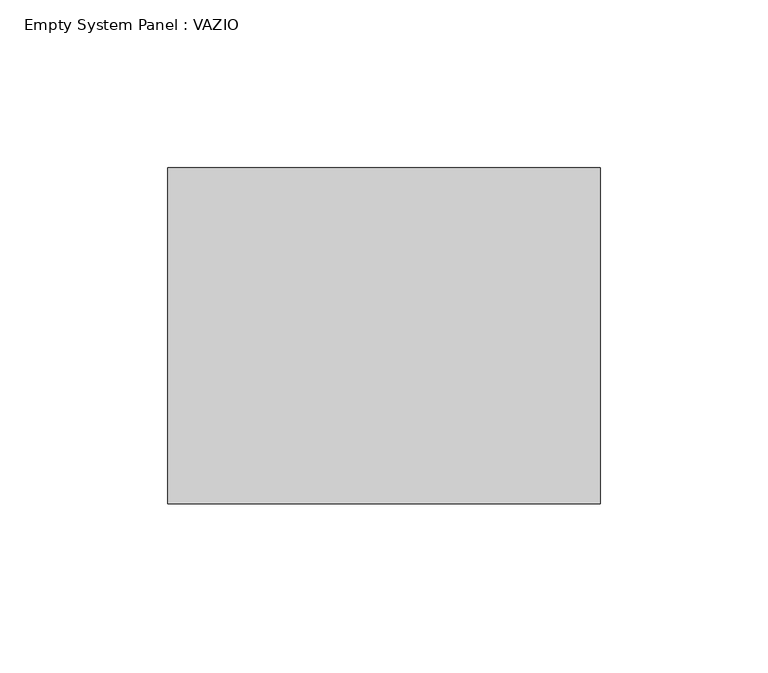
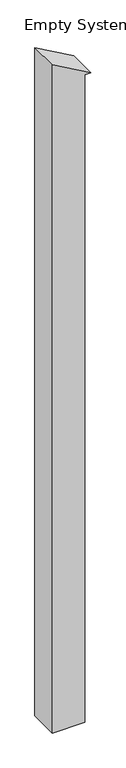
"""IFC4 building model written with IfcOpenShell, lengths in millimetres: plate geometry, Empty System Panel : VAZIO."""

import ifcopenshell
import ifcopenshell.guid

model = None  # the IFC model being written
_history = None  # IfcOwnerHistory: only IFC2X3 demands one
_inside = {}  # id of a spatial element -> (the spatial element, [elements in it])
_under = {}  # id of a project, library or spatial element -> (it, [spatial elements below it])
_declared = {}  # id of a project -> (the project, [libraries it declares])
_typed = {}  # id of a type object -> (the type object, [elements of that type])
_made_of = {}  # id of a material, layer set ... -> (it, [elements and type objects made of it])


def new_model(schema):
    """Start an empty IFC model of exactly this schema.

    Asked for "IFC4X3", IfcOpenShell would pick the latest addendum, in which some entities
    have other attributes; the version numbers below select the first issue.
    IFC2X3 requires an IfcOwnerHistory on every rooted entity: one is made here for all.
    """
    global model, _history
    if schema == "IFC4X3":
        model = ifcopenshell.file(schema_version=(4, 3, 0, 0))
    else:
        model = ifcopenshell.file(schema=schema)
    _inside.clear()
    _under.clear()
    _declared.clear()
    _typed.clear()
    _made_of.clear()
    _history = None
    if model.schema == "IFC2X3":
        org = make("IfcOrganization", Name="unknown")
        user = make(
            "IfcPersonAndOrganization",
            ThePerson=make("IfcPerson", FamilyName="unknown"),
            TheOrganization=org,
        )
        app = make(
            "IfcApplication",
            ApplicationDeveloper=org,
            Version="unknown",
            ApplicationFullName="unknown",
            ApplicationIdentifier="unknown",
        )
        _history = make(
            "IfcOwnerHistory",
            OwningUser=user,
            OwningApplication=app,
            ChangeAction="ADDED",
            CreationDate=0,
        )
    return model


def make(cls, **values):
    """One entity of the class cls with the attributes given. An attribute that is None is left unset."""
    return model.create_entity(
        cls, **{name: value for name, value in values.items() if value is not None}
    )


def rooted(cls, **values):
    """An entity with a GlobalId (a new one), such as an element, a storey or a relation."""
    return make(cls, GlobalId=ifcopenshell.guid.new(), OwnerHistory=_history, **values)


def si_unit(unit_type, name, prefix=None):
    """IfcSIUnit, for example si_unit("LENGTHUNIT", "METRE", prefix="MILLI")."""
    return make("IfcSIUnit", UnitType=unit_type, Prefix=prefix, Name=name)


def assignment(units):
    """IfcUnitAssignment: the units of a project."""
    return None if units is None else make("IfcUnitAssignment", Units=units)


def point(xyz):
    """IfcCartesianPoint."""
    return None if xyz is None else make("IfcCartesianPoint", Coordinates=xyz)


def direction(xyz):
    """IfcDirection."""
    return None if xyz is None else make("IfcDirection", DirectionRatios=xyz)


def frame(location, z_axis=None, x_axis=None):
    """IfcAxis2Placement3D, a coordinate frame: its origin and axes. An axis left out is left unset."""
    return make(
        "IfcAxis2Placement3D",
        Location=point(location),
        Axis=direction(z_axis),
        RefDirection=direction(x_axis),
    )


def frame_2d(location, x_axis=None):
    """IfcAxis2Placement2D, a coordinate frame in the plane: its origin and x axis."""
    return make(
        "IfcAxis2Placement2D", Location=point(location), RefDirection=direction(x_axis)
    )


def origin():
    """The frame at (0, 0, 0) with its axes left unset."""
    return frame((0.0, 0.0, 0.0))


def place(relative_to, where):
    """IfcLocalPlacement: puts the frame where relative to a parent placement (None: the world)."""
    return make(
        "IfcLocalPlacement", PlacementRelTo=relative_to, RelativePlacement=where
    )


def context(
    kind, dimensions, precision=None, world=None, true_north=None, identifier=None
):
    """IfcGeometricRepresentationContext, for example the 3D "Model" context."""
    return make(
        "IfcGeometricRepresentationContext",
        ContextIdentifier=identifier,
        ContextType=kind,
        CoordinateSpaceDimension=dimensions,
        Precision=precision,
        WorldCoordinateSystem=world,
        TrueNorth=true_north,
    )


def project(units=None, contexts=None):
    """IfcProject with its units and contexts."""
    return rooted(
        "IfcProject",
        Name="project",
        RepresentationContexts=contexts,
        UnitsInContext=assignment(units),
    )


def spatial(cls, under=None, at=None, **own):
    """A site, building, storey or space (cls), placed at a placement, below another one or the project."""
    s = rooted(cls, ObjectPlacement=at, **own)
    if under is not None:
        _under.setdefault(under.id(), (under, []))[1].append(s)
    return s


def polyline(points):
    """IfcPolyline through the points."""
    return make("IfcPolyline", Points=[point(p) for p in points])


def circle_curve(where, radius):
    """IfcCircle in the frame where."""
    return make("IfcCircle", Position=where, Radius=radius)


def trimmed(basis, trim1, trim2, sense, master):
    """IfcTrimmedCurve: the piece of a basis curve between two trims."""
    return make(
        "IfcTrimmedCurve",
        BasisCurve=basis,
        Trim1=trim1,
        Trim2=trim2,
        SenseAgreement=sense,
        MasterRepresentation=master,
    )


def segment(curve, same_sense, transition):
    """IfcCompositeCurveSegment."""
    return make(
        "IfcCompositeCurveSegment",
        Transition=transition,
        SameSense=same_sense,
        ParentCurve=curve,
    )


def composite_curve(segments, self_intersect=None):
    """IfcCompositeCurve: segments joined end to end."""
    return make("IfcCompositeCurve", Segments=segments, SelfIntersect=self_intersect)


def outline(outer, holes=None, kind="AREA"):
    """IfcArbitraryClosedProfileDef: a profile drawn as a closed curve; with holes, ...WithVoids."""
    if holes is None:
        return make("IfcArbitraryClosedProfileDef", ProfileType=kind, OuterCurve=outer)
    return make(
        "IfcArbitraryProfileDefWithVoids",
        ProfileType=kind,
        OuterCurve=outer,
        InnerCurves=holes,
    )


def extrude(swept, where, along, depth):
    """IfcExtrudedAreaSolid: the profile swept, set in the frame where, extruded along a direction by depth."""
    return make(
        "IfcExtrudedAreaSolid",
        SweptArea=swept,
        Position=where,
        ExtrudedDirection=direction(along),
        Depth=depth,
    )


def shape(context_of_items, identifier, shape_type, items):
    """IfcShapeRepresentation: the items that make up one representation, for example the "Body"."""
    return make(
        "IfcShapeRepresentation",
        ContextOfItems=context_of_items,
        RepresentationIdentifier=identifier,
        RepresentationType=shape_type,
        Items=items,
    )


def source(mapping_origin, context_of_items, identifier, shape_type, items):
    """IfcRepresentationMap: a shape defined once, which mapped items show again and again."""
    return make(
        "IfcRepresentationMap",
        MappingOrigin=mapping_origin,
        MappedRepresentation=shape(context_of_items, identifier, shape_type, items),
    )


def transform(
    local_origin,
    x_axis=None,
    y_axis=None,
    z_axis=None,
    scale=None,
    scale2=None,
    scale3=None,
    uniform=True,
):
    """IfcCartesianTransformationOperator3D, or its non-uniform kind. x_axis, y_axis, z_axis: its Axis1, 2, 3."""
    if uniform:
        return make(
            "IfcCartesianTransformationOperator3D",
            Axis1=direction(x_axis),
            Axis2=direction(y_axis),
            LocalOrigin=point(local_origin),
            Scale=scale,
            Axis3=direction(z_axis),
        )
    return make(
        "IfcCartesianTransformationOperator3DnonUniform",
        Axis1=direction(x_axis),
        Axis2=direction(y_axis),
        LocalOrigin=point(local_origin),
        Scale=scale,
        Axis3=direction(z_axis),
        Scale2=scale2,
        Scale3=scale3,
    )


def mapped(mapping_source, mapping_target):
    """IfcMappedItem: shows the shape of a source again, moved by a transform."""
    return make(
        "IfcMappedItem", MappingSource=mapping_source, MappingTarget=mapping_target
    )


def made_of(thing, what):
    """Note that an element or type object is made of a material, layer set ...; save() writes the relation."""
    if what is not None:
        _made_of.setdefault(what.id(), (what, []))[1].append(thing)
    return thing


def element(
    cls,
    number,
    at=None,
    inside=None,
    cuts=None,
    type_object=None,
    material=None,
    context=None,
    identifier="Body",
    shape_type=None,
    held_by="IfcProductDefinitionShape",
    body=None,
    shapes=None,
    **own,
):
    """One element of the class cls, such as IfcWall. Its Tag is "e" and its number.

    at: its placement. inside: the storey or other place that contains it. cuts: it is an
    opening in that element (IfcRelVoidsElement). A single representation is given by context,
    identifier, shape_type and body (its items); several are given by shapes. held_by: the class
    of the entity that holds the representations. save() writes the other relations.
    """
    e = rooted(cls, Tag="e%d" % number, ObjectPlacement=at, **own)
    if body is not None:
        shapes = [shape(context, identifier, shape_type, body)]
    if shapes is not None:
        e.Representation = make(held_by, Representations=shapes)
    if inside is not None:
        _inside.setdefault(inside.id(), (inside, []))[1].append(e)
    if cuts is not None:
        rooted(
            "IfcRelVoidsElement", RelatingBuildingElement=cuts, RelatedOpeningElement=e
        )
    if type_object is not None:
        _typed.setdefault(type_object.id(), (type_object, []))[1].append(e)
    return made_of(e, material)


def aggregate(whole, parts):
    """IfcRelAggregates: a whole, such as a stair, and the parts it consists of."""
    return rooted("IfcRelAggregates", RelatingObject=whole, RelatedObjects=parts)


def save(model, path):
    """Write the relations noted so far, then the file.

    IfcRelAggregates (storeys below a building ...), IfcRelContainedInSpatialStructure (elements
    in a storey), IfcRelDefinesByType, IfcRelAssociatesMaterial and IfcRelDeclares: one each for
    every whole, place, type object, material and project.
    """
    for whole, parts in _under.values():
        aggregate(whole, parts)
    for where, things in _inside.values():
        rooted(
            "IfcRelContainedInSpatialStructure",
            RelatedElements=things,
            RelatingStructure=where,
        )
    for kind, things in _typed.values():
        rooted("IfcRelDefinesByType", RelatedObjects=things, RelatingType=kind)
    for what, things in _made_of.values():
        rooted("IfcRelAssociatesMaterial", RelatedObjects=things, RelatingMaterial=what)
    for by, libraries in _declared.values():
        rooted("IfcRelDeclares", RelatingContext=by, RelatedDefinitions=libraries)
    model.write(path)


def empty_system_panel_vazio_a8f05f23(model_context):
    return source(origin(), model_context, "Body", "SweptSolid", [
        extrude(outline(composite_curve([segment(polyline([(0.0, -64.3902439), (0.0, 44.3902439), (2283.3647489, 44.3902439), (2283.3647489, 64.3902439)]), True, "CONTINUOUS"), segment(trimmed(circle_curve(frame_2d((-470.6496213, -1592.195122)), 3213.8559746), [point((2283.3647489, 64.3902439))], [point((2356.8373336, -64.3902439))], False, "CARTESIAN"), True, "CONTINUOUS"), segment(polyline([(2356.8373336, -64.3902439), (0.0, -64.3902439)]), True, "CONTINUOUS")], self_intersect=False)), frame((0.0, -50.0, 0.0), z_axis=(0.0, 1.0, 0.0), x_axis=(0.0, 0.0, 1.0)), (0.0, 0.0, 1.0), 100.0),
    ])


if __name__ == "__main__":
    model = new_model("IFC4")
    model_context = context("Model", 3, world=origin())
    ifc_project = project(units=[si_unit("LENGTHUNIT", "METRE", prefix="MILLI")], contexts=[model_context])
    site = spatial("IfcSite", under=ifc_project)
    building = spatial("IfcBuilding", under=site)
    placement = place(None, origin())
    empty_system_panel_vazio_shape = empty_system_panel_vazio_a8f05f23(model_context)
    element("IfcPlate", 1, ObjectType="Empty System Panel : VAZIO", at=placement, inside=building, context=model_context, shape_type="MappedRepresentation", body=[
        mapped(empty_system_panel_vazio_shape, transform((0.0, 0.0, 0.0), x_axis=(1.0, 0.0, 0.0), y_axis=(0.0, 1.0, 0.0), z_axis=(0.0, 0.0, 1.0))),
    ])
    save(model, "model.ifc")
